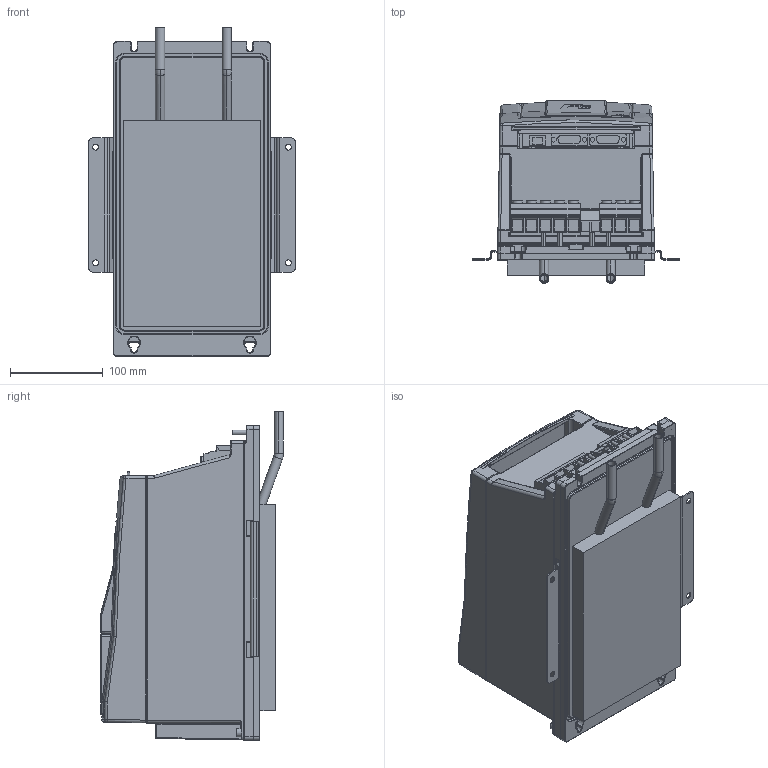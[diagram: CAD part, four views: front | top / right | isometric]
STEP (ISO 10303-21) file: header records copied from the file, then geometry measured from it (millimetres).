
FILE_DESCRIPTION (( 'STEP AP214' ), '1' );
FILE_NAME ('F6-3 TW5-A010.STEP', '2022-05-25T09:37:34', ( '' ), ( '' ), 'SwSTEP 2.0', 'SolidWorks 2019', '' );
FILE_SCHEMA (( 'AUTOMOTIVE_DESIGN' ));
Length unit declared in the file: millimetre
Products named in the file (9): 10059764_000_Blindabdeckung (Kundenmodell); Kundenmodell^10068340_000; 10068340_000_Leistungsteil TW5 (Kundenmodell); 10044643_000_Kundenmodell; F6-3 TW5-A010; 10040482_000_Kundenmodell; Kundenmodell^10040482_000; Kundenmodell^10044643_000; Kundenmodell^10059764_000
Assembly tree (8 placements, depth 4):
  F6-3 TW5-A010
    10068340_000_Leistungsteil TW5 (Kundenmodell)
      Kundenmodell^10068340_000
    10040482_000_Kundenmodell
      Kundenmodell^10040482_000
    10044643_000_Kundenmodell
      10059764_000_Blindabdeckung (Kundenmodell)
        Kundenmodell^10059764_000
      Kundenmodell^10044643_000
Bounding box: 223 x 197.4 x 355 mm (x, y, z)
Volume: 7989945.3 mm3; surface area: 589399 mm2
Topology: 11 solids, 15 shells, 2125 faces, 5344 edges, 3274 vertices
Faces by surface type: plane 893, cylinder 661, bspline 331, torus 113, cone 77, sphere 50
Entity records: 70665 total; most frequent: CARTESIAN_POINT 22542, ORIENTED_EDGE 10560, DIRECTION 9257, EDGE_CURVE 5280, VERTEX_POINT 3273, AXIS2_PLACEMENT_3D 3207, VECTOR 2843, LINE 2843
